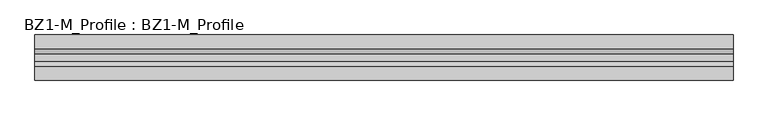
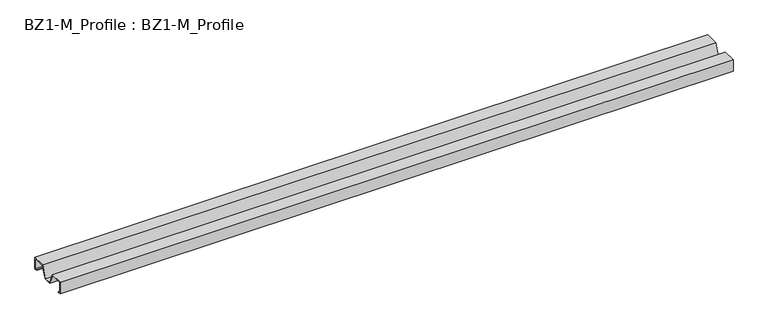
"""IFC4 building model written with IfcOpenShell, lengths in millimetres: beam geometry, BZ1-M_Profile : BZ1-M_Profile."""

from ifc_helpers import new_model, si_unit, frame, origin, place, context, project, spatial, polyline, outline, extrude, source, transform, mapped, element, save


def bz1_m_profile_bz1_m_profile_3dba807f(model_context):
    return source(origin(), model_context, "Body", "SweptSolid", [
        extrude(outline(polyline([(45.0, 25.0), (45.0, 0.0), (39.0, 0.0), (39.0, 1.0), (44.0, 1.0), (44.0, 24.0), (18.3051526, 24.0), (8.117757, 0.0), (-8.117757, 0.0), (-18.3051526, 24.0), (-44.0, 24.0), (-44.0, 1.0), (-39.0, 1.0), (-39.0, 0.0), (-45.0, 0.0), (-45.0, 25.0), (-17.643267, 25.0), (-7.4558714, 1.0), (7.4558714, 1.0), (17.643267, 25.0), (45.0, 25.0)])), frame((-650.0, 0.0, 0.0), z_axis=(1.0, 0.0, 0.0), x_axis=(0.0, 1.0, 0.0)), (0.0, 0.0, 1.0), 1391.0344543),
    ])


if __name__ == "__main__":
    model = new_model("IFC4")
    model_context = context("Model", 3, world=origin())
    ifc_project = project(units=[si_unit("LENGTHUNIT", "METRE", prefix="MILLI")], contexts=[model_context])
    site = spatial("IfcSite", under=ifc_project)
    building = spatial("IfcBuilding", under=site)
    placement = place(None, origin())
    bz1_m_profile_bz1_m_profile_shape = bz1_m_profile_bz1_m_profile_3dba807f(model_context)
    element("IfcBeam", 1, ObjectType="BZ1-M_Profile : BZ1-M_Profile", at=placement, inside=building, context=model_context, shape_type="MappedRepresentation", body=[
        mapped(bz1_m_profile_bz1_m_profile_shape, transform((0.0, 0.0, 0.0), x_axis=(1.0, 0.0, 0.0), y_axis=(0.0, 1.0, 0.0), z_axis=(0.0, 0.0, 1.0))),
    ])
    save(model, "model.ifc")
